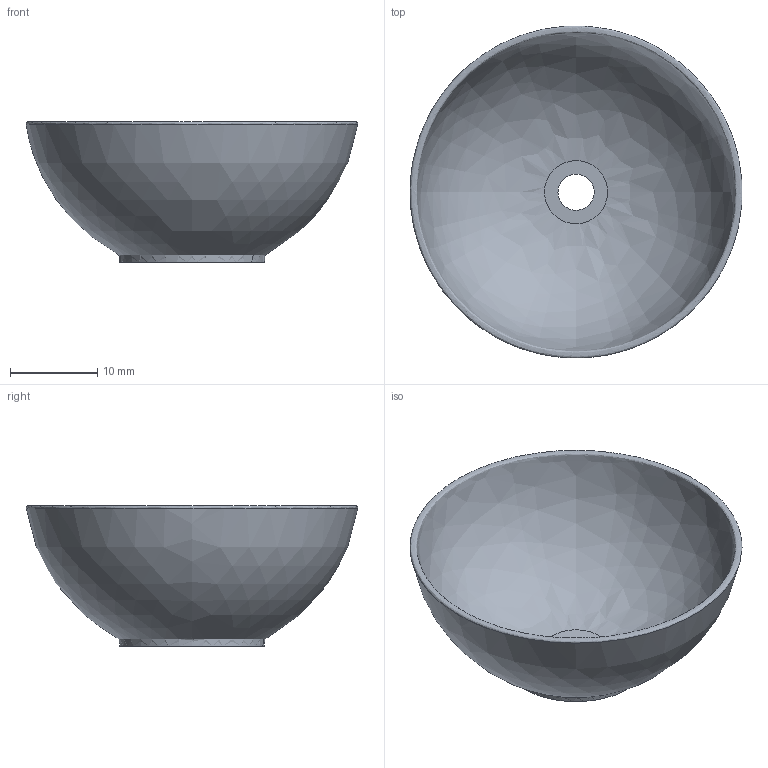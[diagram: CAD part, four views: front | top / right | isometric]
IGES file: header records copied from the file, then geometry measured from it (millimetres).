
Global section: file name: C:\Users\FULVIO\Desktop\Archivio Nic\Ciotole\Flavia 38\Modello 3D\flavia_38.igs; native system: Rhinoceros ( Mar  6 2018 ); preprocessor: Trout Lake IGES 012 Mar  6 2018; date: 191219.104536; units: millimetre
Bounding box: 37.99 x 37.98 x 16.06 mm (x, y, z)
Surface area: 3987.9 mm2 (no closed solid volume)
Topology: 0 solids, 0 shells, 6 faces, 18 edges, 12 vertices
Faces by surface type: bspline 6
